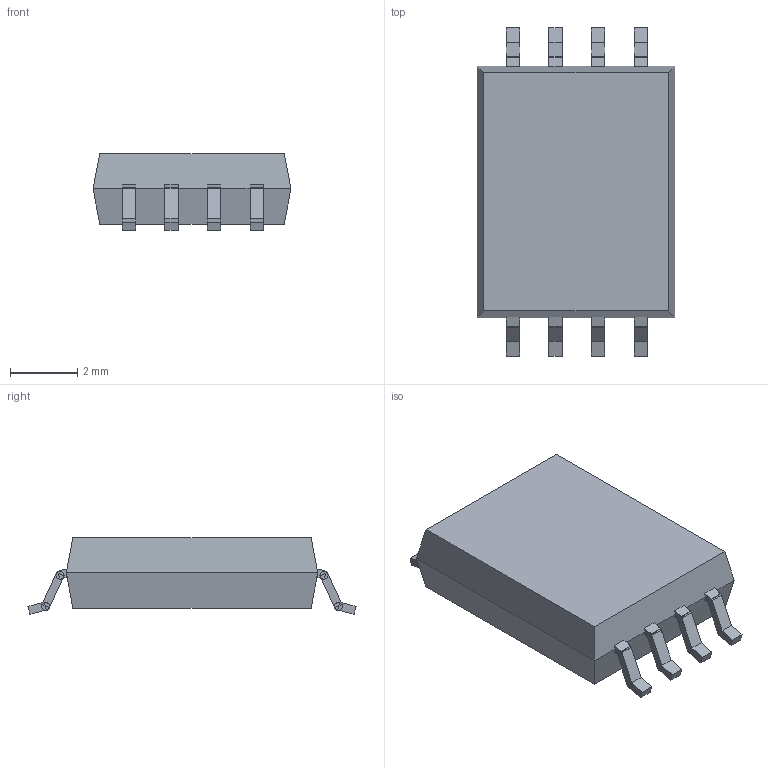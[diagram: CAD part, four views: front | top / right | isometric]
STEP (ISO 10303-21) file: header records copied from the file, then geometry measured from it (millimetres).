
FILE_DESCRIPTION(('FreeCAD Model'),'2;1');
FILE_NAME('Open CASCADE Shape Model','2023-12-05T17:50:25',('Author'),( ''),'Open CASCADE STEP processor 7.6','FreeCAD','Unknown');
FILE_SCHEMA(('AUTOMOTIVE_DESIGN { 1 0 10303 214 1 1 1 1 }'));
Length unit declared in the file: millimetre
Products named in the file (1): Group009
Bounding box: 5.9 x 9.79 x 2.28 mm (x, y, z)
Volume: 88.8 mm3; surface area: 151.6 mm2
Topology: 1 solids, 1 shells, 338 faces, 812 edges, 476 vertices
Faces by surface type: plane 322, cylinder 16
Entity records: 23158 total; most frequent: CARTESIAN_POINT 5171, DIRECTION 2826, LINE 1700, VECTOR 1700, ORIENTED_EDGE 1624, PCURVE 1624, DEFINITIONAL_REPRESENTATION 1624, EDGE_CURVE 812
